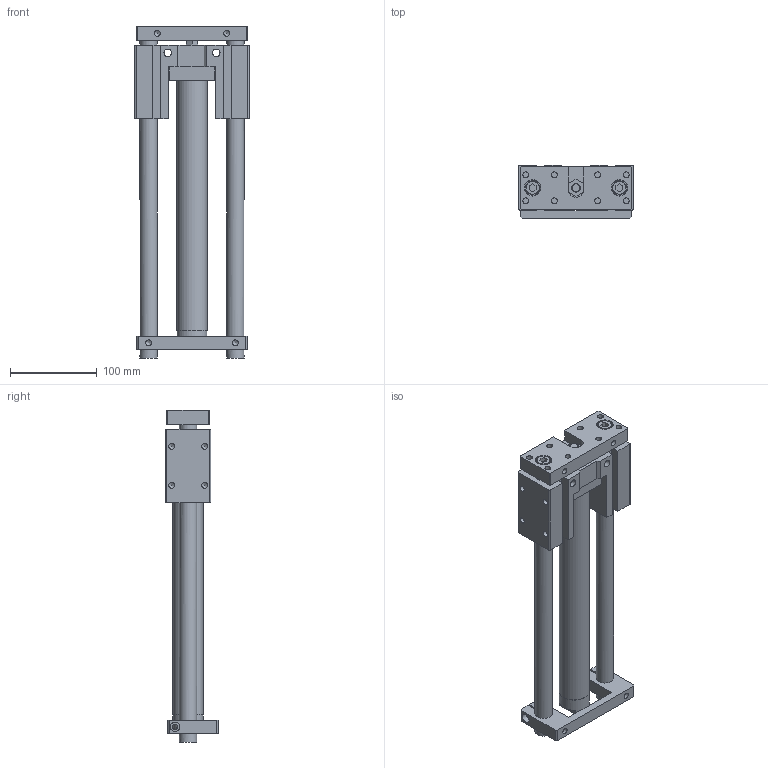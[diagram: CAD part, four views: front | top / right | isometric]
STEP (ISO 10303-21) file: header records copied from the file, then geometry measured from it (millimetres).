
FILE_DESCRIPTION((''),'2;1');
FILE_NAME('I:\3D電子目錄\氣缸\TMB(U)\TMB(U)\TMB(U)32\TMB(U)32x250.stp','2007-10-05T11:18:42',('Administrator'),(''),'Autodesk Inventor 11','Autodesk Inventor 11','');
FILE_SCHEMA(('AUTOMOTIVE_DESIGN { 1 0 10303 214 1 1 1 1 }'));
Length unit declared in the file: millimetre
Products named in the file (1): TMB(U)32
Bounding box: 132 x 61 x 383 mm (x, y, z)
Volume: 1007604.8 mm3; surface area: 166538.8 mm2
Topology: 1 solids, 1 shells, 198 faces, 514 edges, 338 vertices
Faces by surface type: plane 117, bspline 41, cylinder 23, cone 15, torus 2
Full cylindrical faces by diameter (mm): 6.5 x2, 6.647 x6, 10 x1, 11 x1, 16 x2, 18 x2, 20 x2, 35 x2
Entity records: 6000 total; most frequent: CARTESIAN_POINT 1554, DIRECTION 850, ORIENTED_EDGE 842, EDGE_CURVE 421, EDGE_LOOP 320, VERTEX_POINT 313, VECTOR 300, LINE 300
